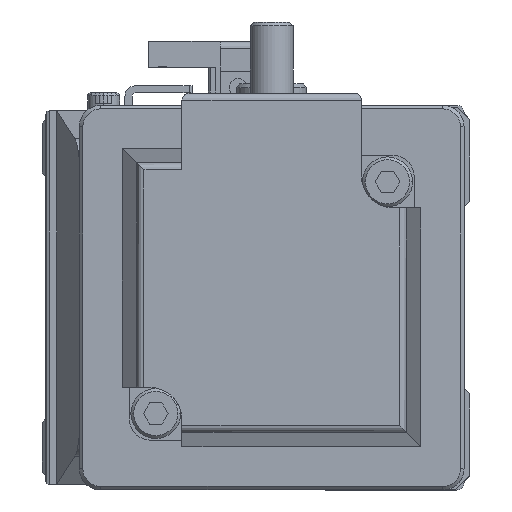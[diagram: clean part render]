
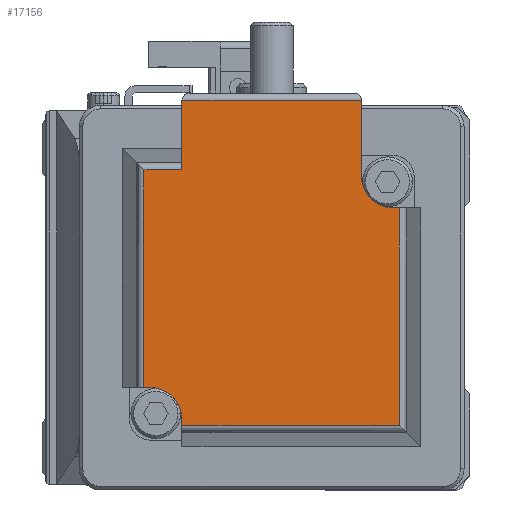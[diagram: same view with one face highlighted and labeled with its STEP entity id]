
A CAD part, left-side view. The second image highlights one B-rep face of the part: STEP entity #17156.
In plain terms, the highlighted planar face has unit normal (-1, 0, 0) as drawn and (0, 1, 0) by its records, which use the part's own axes.
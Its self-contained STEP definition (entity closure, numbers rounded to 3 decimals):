
#591 = VERTEX_POINT ( 'NONE', #5193 ) ;
#1004 = FACE_OUTER_BOUND ( 'NONE', #9678, .T. ) ;
#1252 = EDGE_CURVE ( 'NONE', #6230, #14509, #25069, .T. ) ;
#1488 = CARTESIAN_POINT ( 'NONE',  ( 17.929, 100.6, -12.6 ) ) ;
#1522 = CARTESIAN_POINT ( 'NONE',  ( 12.6, 100.6, 17.929 ) ) ;
#1628 = DIRECTION ( 'NONE',  ( 0., 0., 1. ) ) ;
#1747 = CARTESIAN_POINT ( 'NONE',  ( 17.929, 100.6, -17.929 ) ) ;
#1839 = VECTOR ( 'NONE', #6938, 1000. ) ;
#2199 = DIRECTION ( 'NONE',  ( 0., 0., -1. ) ) ;
#2310 = ORIENTED_EDGE ( 'NONE', *, *, #13707, .F. ) ;
#2366 = ORIENTED_EDGE ( 'NONE', *, *, #3534, .F. ) ;
#3534 = EDGE_CURVE ( 'NONE', #10041, #5811, #10062, .T. ) ;
#3948 = VECTOR ( 'NONE', #9908, 1000. ) ;
#4050 = DIRECTION ( 'NONE',  ( 0., -1., 0. ) ) ;
#4528 = VERTEX_POINT ( 'NONE', #15109 ) ;
#4844 = EDGE_CURVE ( 'NONE', #10646, #11690, #8744, .T. ) ;
#5193 = CARTESIAN_POINT ( 'NONE',  ( -17.929, 100.6, -12.6 ) ) ;
#5237 = EDGE_CURVE ( 'NONE', #591, #14509, #33723, .T. ) ;
#5811 = VERTEX_POINT ( 'NONE', #20045 ) ;
#6062 = VECTOR ( 'NONE', #29090, 1000. ) ;
#6230 = VERTEX_POINT ( 'NONE', #19884 ) ;
#6279 = EDGE_CURVE ( 'NONE', #11690, #591, #27264, .T. ) ;
#6403 = EDGE_CURVE ( 'NONE', #12822, #4528, #30687, .T. ) ;
#6486 = EDGE_CURVE ( 'NONE', #34032, #24070, #24288, .T. ) ;
#6752 = AXIS2_PLACEMENT_3D ( 'NONE', #10795, #16112, #19060 ) ;
#6898 = DIRECTION ( 'NONE',  ( 0., 0., -1. ) ) ;
#6938 = DIRECTION ( 'NONE',  ( 1., 0., 0. ) ) ;
#7331 = VECTOR ( 'NONE', #19592, 1000. ) ;
#7559 = DIRECTION ( 'NONE',  ( 0., 0., 1. ) ) ;
#8744 = LINE ( 'NONE', #16017, #20639 ) ;
#9090 = DIRECTION ( 'NONE',  ( 0., 0., -1. ) ) ;
#9678 = EDGE_LOOP ( 'NONE', ( #2310, #32189, #9781, #26233, #27488, #34973, #34770, #24384, #22436, #13335, #25635, #2366 ) ) ;
#9730 = AXIS2_PLACEMENT_3D ( 'NONE', #14965, #4050, #6898 ) ;
#9781 = ORIENTED_EDGE ( 'NONE', *, *, #6403, .F. ) ;
#9908 = DIRECTION ( 'NONE',  ( 1., 0., 0. ) ) ;
#10041 = VERTEX_POINT ( 'NONE', #24554 ) ;
#10062 = CIRCLE ( 'NONE', #27243, 4.5 ) ;
#10468 = DIRECTION ( 'NONE',  ( -1., 0., 0. ) ) ;
#10646 = VERTEX_POINT ( 'NONE', #1522 ) ;
#10732 = CARTESIAN_POINT ( 'NONE',  ( -17.929, 100.6, 17.929 ) ) ;
#10734 = EDGE_CURVE ( 'NONE', #24070, #12822, #26602, .T. ) ;
#10795 = CARTESIAN_POINT ( 'NONE',  ( 17.929, 100.6, 25. ) ) ;
#11690 = VERTEX_POINT ( 'NONE', #10732 ) ;
#12753 = VERTEX_POINT ( 'NONE', #27454 ) ;
#12822 = VERTEX_POINT ( 'NONE', #17412 ) ;
#13210 = CARTESIAN_POINT ( 'NONE',  ( -12.6, 100.6, -17.929 ) ) ;
#13335 = ORIENTED_EDGE ( 'NONE', *, *, #4844, .F. ) ;
#13367 = LINE ( 'NONE', #21086, #34148 ) ;
#13707 = EDGE_CURVE ( 'NONE', #12753, #10041, #15623, .T. ) ;
#14509 = VERTEX_POINT ( 'NONE', #18673 ) ;
#14965 = CARTESIAN_POINT ( 'NONE',  ( -17.1, 100.6, -17.1 ) ) ;
#15109 = CARTESIAN_POINT ( 'NONE',  ( 27.7, 100.6, -12.6 ) ) ;
#15623 = LINE ( 'NONE', #15658, #23691 ) ;
#15658 = CARTESIAN_POINT ( 'NONE',  ( 17.929, 100.6, 12.6 ) ) ;
#15943 = CARTESIAN_POINT ( 'NONE',  ( 17.1, 100.6, 17.1 ) ) ;
#16017 = CARTESIAN_POINT ( 'NONE',  ( 17.929, 100.6, 17.929 ) ) ;
#16112 = DIRECTION ( 'NONE',  ( 0., -1., 0. ) ) ;
#17156 = ADVANCED_FACE ( 'NONE', ( #1004 ), #29367, .F. ) ;
#17412 = CARTESIAN_POINT ( 'NONE',  ( 17.929, 100.6, -12.6 ) ) ;
#17609 = EDGE_CURVE ( 'NONE', #34032, #6230, #32362, .T. ) ;
#18460 = CARTESIAN_POINT ( 'NONE',  ( 17.929, 100.6, 25. ) ) ;
#18673 = CARTESIAN_POINT ( 'NONE',  ( -17.1, 100.6, -12.6 ) ) ;
#18812 = VECTOR ( 'NONE', #9090, 1000. ) ;
#19060 = DIRECTION ( 'NONE',  ( 0., 0., -1. ) ) ;
#19592 = DIRECTION ( 'NONE',  ( 0., 0., 1. ) ) ;
#19646 = CARTESIAN_POINT ( 'NONE',  ( -17.929, 100.6, 25. ) ) ;
#19884 = CARTESIAN_POINT ( 'NONE',  ( -12.6, 100.6, -17.1 ) ) ;
#20045 = CARTESIAN_POINT ( 'NONE',  ( 12.6, 100.6, 17.1 ) ) ;
#20504 = DIRECTION ( 'NONE',  ( 1., 0., 0. ) ) ;
#20639 = VECTOR ( 'NONE', #10468, 1000. ) ;
#20837 = CARTESIAN_POINT ( 'NONE',  ( -12.6, 100.6, -21. ) ) ;
#21086 = CARTESIAN_POINT ( 'NONE',  ( 12.6, 100.6, 25. ) ) ;
#21394 = DIRECTION ( 'NONE',  ( 0., 1., 0. ) ) ;
#22436 = ORIENTED_EDGE ( 'NONE', *, *, #6279, .F. ) ;
#23691 = VECTOR ( 'NONE', #34617, 1000. ) ;
#24066 = EDGE_CURVE ( 'NONE', #4528, #12753, #29357, .T. ) ;
#24070 = VERTEX_POINT ( 'NONE', #1747 ) ;
#24288 = LINE ( 'NONE', #26248, #3948 ) ;
#24384 = ORIENTED_EDGE ( 'NONE', *, *, #5237, .F. ) ;
#24554 = CARTESIAN_POINT ( 'NONE',  ( 17.1, 100.6, 12.6 ) ) ;
#25069 = CIRCLE ( 'NONE', #9730, 4.5 ) ;
#25635 = ORIENTED_EDGE ( 'NONE', *, *, #33177, .F. ) ;
#25673 = VECTOR ( 'NONE', #20504, 1000. ) ;
#26233 = ORIENTED_EDGE ( 'NONE', *, *, #10734, .F. ) ;
#26248 = CARTESIAN_POINT ( 'NONE',  ( 17.929, 100.6, -17.929 ) ) ;
#26602 = LINE ( 'NONE', #18460, #32132 ) ;
#27243 = AXIS2_PLACEMENT_3D ( 'NONE', #15943, #21394, #2199 ) ;
#27264 = LINE ( 'NONE', #19646, #18812 ) ;
#27454 = CARTESIAN_POINT ( 'NONE',  ( 27.7, 100.6, 12.6 ) ) ;
#27488 = ORIENTED_EDGE ( 'NONE', *, *, #6486, .F. ) ;
#29090 = DIRECTION ( 'NONE',  ( 0., 0., 1. ) ) ;
#29357 = LINE ( 'NONE', #29893, #7331 ) ;
#29367 = PLANE ( 'NONE',  #6752 ) ;
#29893 = CARTESIAN_POINT ( 'NONE',  ( 27.7, 100.6, 25. ) ) ;
#30687 = LINE ( 'NONE', #1488, #1839 ) ;
#32132 = VECTOR ( 'NONE', #7559, 1000. ) ;
#32189 = ORIENTED_EDGE ( 'NONE', *, *, #24066, .F. ) ;
#32362 = LINE ( 'NONE', #20837, #6062 ) ;
#33177 = EDGE_CURVE ( 'NONE', #5811, #10646, #13367, .T. ) ;
#33627 = CARTESIAN_POINT ( 'NONE',  ( 17.929, 100.6, -12.6 ) ) ;
#33723 = LINE ( 'NONE', #33627, #25673 ) ;
#34032 = VERTEX_POINT ( 'NONE', #13210 ) ;
#34148 = VECTOR ( 'NONE', #1628, 1000. ) ;
#34617 = DIRECTION ( 'NONE',  ( -1., 0., 0. ) ) ;
#34770 = ORIENTED_EDGE ( 'NONE', *, *, #1252, .T. ) ;
#34973 = ORIENTED_EDGE ( 'NONE', *, *, #17609, .T. ) ;
